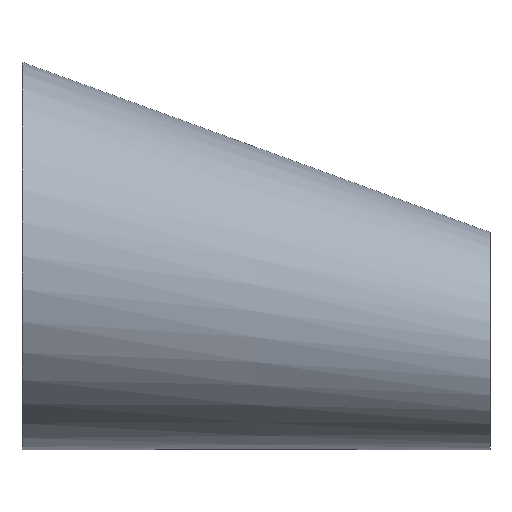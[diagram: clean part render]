
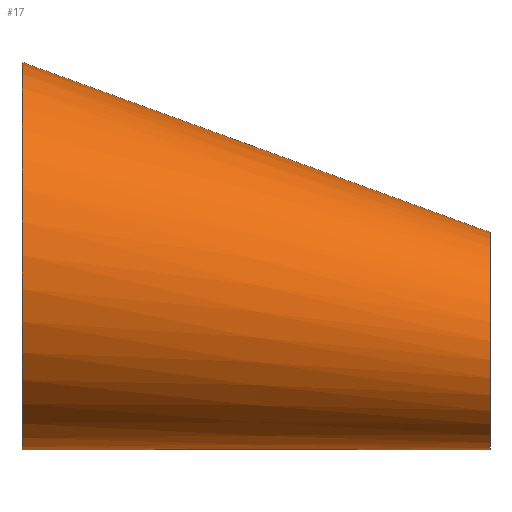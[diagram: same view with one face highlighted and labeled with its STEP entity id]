
A CAD part, top view. The second image highlights one B-rep face of the part: STEP entity #17.
In plain terms, the highlighted free-form (B-spline) face has degree [14, 1] with [15, 2] control points.
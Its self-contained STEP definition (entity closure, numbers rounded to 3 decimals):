
#17 = ADVANCED_FACE('',(#18),#31,.T.);
#18 = FACE_BOUND('',#19,.T.);
#19 = EDGE_LOOP('',(#20,#80,#102,#129));
#20 = ORIENTED_EDGE('',*,*,#21,.T.);
#21 = EDGE_CURVE('',#22,#22,#24,.T.);
#22 = VERTEX_POINT('',#23);
#23 = CARTESIAN_POINT('',(0.,20.5,0.));
#24 = SURFACE_CURVE('',#25,(#30,#68),.PCURVE_S1.);
#25 = CIRCLE('',#26,20.5);
#26 = AXIS2_PLACEMENT_3D('',#27,#28,#29);
#27 = CARTESIAN_POINT('',(0.,0.,0.));
#28 = DIRECTION('',(1.,0.,0.));
#29 = DIRECTION('',(0.,1.,0.));
#30 = PCURVE('',#31,#62);
#31 = B_SPLINE_SURFACE_WITH_KNOTS('',14,1,(
    (#32,#33)
    ,(#34,#35)
    ,(#36,#37)
    ,(#38,#39)
    ,(#40,#41)
    ,(#42,#43)
    ,(#44,#45)
    ,(#46,#47)
    ,(#48,#49)
    ,(#50,#51)
    ,(#52,#53)
    ,(#54,#55)
    ,(#56,#57)
    ,(#58,#59)
    ,(#60,#61
    )),.UNSPECIFIED.,.T.,.F.,.F.,(15,15),(2,2),(0.,6.283),(0.,1.
    ),.PIECEWISE_BEZIER_KNOTS.);
#32 = CARTESIAN_POINT('',(0.,20.5,0.));
#33 = CARTESIAN_POINT('',(49.5,2.5,0.));
#34 = CARTESIAN_POINT('',(0.,20.5,9.2));
#35 = CARTESIAN_POINT('',(49.5,2.5,5.161)
  );
#36 = CARTESIAN_POINT('',(0.,16.053,18.401));
#37 = CARTESIAN_POINT('',(49.5,0.005,
    10.322));
#38 = CARTESIAN_POINT('',(0.,7.16,25.273));
#39 = CARTESIAN_POINT('',(49.5,-4.984,
    14.177));
#40 = CARTESIAN_POINT('',(0.,-4.851,27.488));
#41 = CARTESIAN_POINT('',(49.5,-11.721,
    15.42));
#42 = CARTESIAN_POINT('',(0.,-17.318,23.554));
#43 = CARTESIAN_POINT('',(49.5,-18.715,13.213
    ));
#44 = CARTESIAN_POINT('',(0.,-26.835,13.651));
#45 = CARTESIAN_POINT('',(49.5,-24.054,7.658
    ));
#46 = CARTESIAN_POINT('',(0.,-30.418,0.));
#47 = CARTESIAN_POINT('',(49.5,-26.064,
    0.));
#48 = CARTESIAN_POINT('',(0.,-26.835,-13.651));
#49 = CARTESIAN_POINT('',(49.5,-24.054,
    -7.658));
#50 = CARTESIAN_POINT('',(0.,-17.318,-23.554));
#51 = CARTESIAN_POINT('',(49.5,-18.715,
    -13.213));
#52 = CARTESIAN_POINT('',(0.,-4.851,-27.488));
#53 = CARTESIAN_POINT('',(49.5,-11.721,-15.42
    ));
#54 = CARTESIAN_POINT('',(0.,7.16,-25.273));
#55 = CARTESIAN_POINT('',(49.5,-4.984,-14.177
    ));
#56 = CARTESIAN_POINT('',(0.,16.053,-18.401));
#57 = CARTESIAN_POINT('',(49.5,0.005,
    -10.322));
#58 = CARTESIAN_POINT('',(0.,20.5,-9.2));
#59 = CARTESIAN_POINT('',(49.5,2.5,-5.161
    ));
#60 = CARTESIAN_POINT('',(0.,20.5,0.));
#61 = CARTESIAN_POINT('',(49.5,2.5,0.));
#62 = DEFINITIONAL_REPRESENTATION('',(#63),#67);
#63 = LINE('',#64,#65);
#64 = CARTESIAN_POINT('',(0.,0.));
#65 = VECTOR('',#66,1.);
#66 = DIRECTION('',(1.,0.));
#67 = ( GEOMETRIC_REPRESENTATION_CONTEXT(2) 
PARAMETRIC_REPRESENTATION_CONTEXT() REPRESENTATION_CONTEXT('2D SPACE',''
  ) );
#68 = PCURVE('',#69,#74);
#69 = PLANE('',#70);
#70 = AXIS2_PLACEMENT_3D('',#71,#72,#73);
#71 = CARTESIAN_POINT('',(0.,0.,0.));
#72 = DIRECTION('',(1.,0.,0.));
#73 = DIRECTION('',(0.,1.,0.));
#74 = DEFINITIONAL_REPRESENTATION('',(#75),#79);
#75 = CIRCLE('',#76,20.5);
#76 = AXIS2_PLACEMENT_2D('',#77,#78);
#77 = CARTESIAN_POINT('',(0.,0.));
#78 = DIRECTION('',(1.,0.));
#79 = ( GEOMETRIC_REPRESENTATION_CONTEXT(2) 
PARAMETRIC_REPRESENTATION_CONTEXT() REPRESENTATION_CONTEXT('2D SPACE',''
  ) );
#80 = ORIENTED_EDGE('',*,*,#81,.T.);
#81 = EDGE_CURVE('',#22,#82,#84,.T.);
#82 = VERTEX_POINT('',#83);
#83 = CARTESIAN_POINT('',(49.5,2.5,0.));
#84 = SEAM_CURVE('',#85,(#88,#95),.PCURVE_S1.);
#85 = B_SPLINE_CURVE_WITH_KNOTS('',1,(#86,#87),.UNSPECIFIED.,.F.,.F.,(2,
    2),(0.,1.),.PIECEWISE_BEZIER_KNOTS.);
#86 = CARTESIAN_POINT('',(0.,20.5,0.));
#87 = CARTESIAN_POINT('',(49.5,2.5,0.));
#88 = PCURVE('',#31,#89);
#89 = DEFINITIONAL_REPRESENTATION('',(#90),#94);
#90 = LINE('',#91,#92);
#91 = CARTESIAN_POINT('',(6.283,0.));
#92 = VECTOR('',#93,1.);
#93 = DIRECTION('',(0.,1.));
#94 = ( GEOMETRIC_REPRESENTATION_CONTEXT(2) 
PARAMETRIC_REPRESENTATION_CONTEXT() REPRESENTATION_CONTEXT('2D SPACE',''
  ) );
#95 = PCURVE('',#31,#96);
#96 = DEFINITIONAL_REPRESENTATION('',(#97),#101);
#97 = LINE('',#98,#99);
#98 = CARTESIAN_POINT('',(0.,0.));
#99 = VECTOR('',#100,1.);
#100 = DIRECTION('',(0.,1.));
#101 = ( GEOMETRIC_REPRESENTATION_CONTEXT(2) 
PARAMETRIC_REPRESENTATION_CONTEXT() REPRESENTATION_CONTEXT('2D SPACE',''
  ) );
#102 = ORIENTED_EDGE('',*,*,#103,.F.);
#103 = EDGE_CURVE('',#82,#82,#104,.T.);
#104 = SURFACE_CURVE('',#105,(#110,#117),.PCURVE_S1.);
#105 = CIRCLE('',#106,11.5);
#106 = AXIS2_PLACEMENT_3D('',#107,#108,#109);
#107 = CARTESIAN_POINT('',(49.5,-9.,0.));
#108 = DIRECTION('',(1.,0.,0.));
#109 = DIRECTION('',(0.,1.,0.));
#110 = PCURVE('',#31,#111);
#111 = DEFINITIONAL_REPRESENTATION('',(#112),#116);
#112 = LINE('',#113,#114);
#113 = CARTESIAN_POINT('',(0.,1.));
#114 = VECTOR('',#115,1.);
#115 = DIRECTION('',(1.,0.));
#116 = ( GEOMETRIC_REPRESENTATION_CONTEXT(2) 
PARAMETRIC_REPRESENTATION_CONTEXT() REPRESENTATION_CONTEXT('2D SPACE',''
  ) );
#117 = PCURVE('',#118,#123);
#118 = PLANE('',#119);
#119 = AXIS2_PLACEMENT_3D('',#120,#121,#122);
#120 = CARTESIAN_POINT('',(49.5,-9.,0.));
#121 = DIRECTION('',(1.,0.,0.));
#122 = DIRECTION('',(0.,1.,0.));
#123 = DEFINITIONAL_REPRESENTATION('',(#124),#128);
#124 = CIRCLE('',#125,11.5);
#125 = AXIS2_PLACEMENT_2D('',#126,#127);
#126 = CARTESIAN_POINT('',(0.,0.));
#127 = DIRECTION('',(1.,0.));
#128 = ( GEOMETRIC_REPRESENTATION_CONTEXT(2) 
PARAMETRIC_REPRESENTATION_CONTEXT() REPRESENTATION_CONTEXT('2D SPACE',''
  ) );
#129 = ORIENTED_EDGE('',*,*,#81,.F.);
